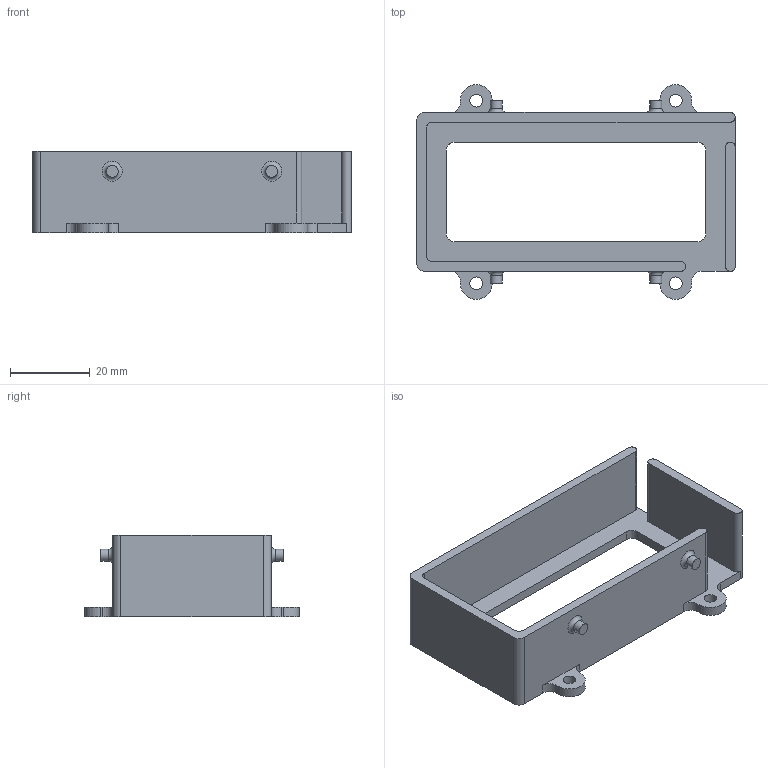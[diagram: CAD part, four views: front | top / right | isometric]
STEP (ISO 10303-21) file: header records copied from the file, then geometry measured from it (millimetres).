
FILE_DESCRIPTION(/* description */ (''),/* implementation_level */ '2;1');
FILE_NAME(/* name */ 'C:/Users/User/Desktop/battery stand v4.step',/* time_stamp */ '2021-02-22T16:10:43+08:00',/* author */ (''),/* organization */ (''),/* preprocessor_version */ 'ST-DEVELOPER v18.1',/* originating_system */ 'Autodesk Translation Framework v9.7.1.1290',/* authorisation */ '');
FILE_SCHEMA (('AUTOMOTIVE_DESIGN { 1 0 10303 214 3 1 1 }'));
Length unit declared in the file: millimetre
Products named in the file (1): battery stand
Bounding box: 79.8 x 53.8 x 20.4 mm (x, y, z)
Volume: 13452.2 mm3; surface area: 12491.9 mm2
Topology: 1 solids, 1 shells, 68 faces, 186 edges, 124 vertices
Faces by surface type: plane 32, cylinder 32, torus 4
Full cylindrical faces by diameter (mm): 3 x4, 3.2 x4
Entity records: 2241 total; most frequent: DIRECTION 402, CARTESIAN_POINT 379, ORIENTED_EDGE 372, EDGE_CURVE 186, AXIS2_PLACEMENT_3D 147, VERTEX_POINT 124, LINE 108, VECTOR 108
